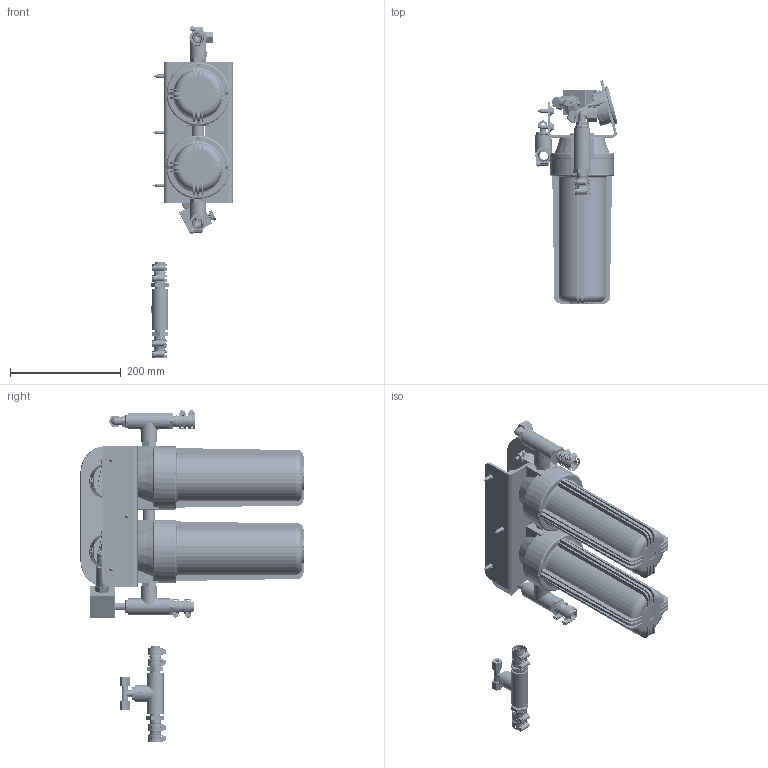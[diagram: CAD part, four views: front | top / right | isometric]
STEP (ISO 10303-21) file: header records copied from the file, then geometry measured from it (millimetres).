
FILE_DESCRIPTION(/* description */ (''),/* implementation_level */ '2;1');
FILE_NAME(/* name */ 'E:\Engineering\SRC\Leisure Marine, Product Development\2- STANDARD UNITS\HRO-MODULAR UNITS\H25M SEAFARI VERSATILE MODULAR W-TRANS\H2108200002 PREFILTER ASSY W-GAUGE,W-TRANS,HOR SEAFARI.stp',/* time_stamp */ '2015-10-20T15:58:46-07:00',/* author */ ('515746'),/* organization */ (''),/* preprocessor_version */ 'ST-DEVELOPER v15.2',/* originating_system */ 'Autodesk Inventor 2014',/* authorisation */ '');
FILE_SCHEMA (('CONFIG_CONTROL_DESIGN'));
Length unit declared in the file: inch
Products named in the file (2): H2108200002 PREFILTER ASSY W-GAUGE,W-TRANS,HOR SEAFARI_Substitute_1; H2108200002 PREFILTER ASSY W-GAUGE,W-TRANS,HOR SEAFARI
Bounding box: 148.81 x 402.43 x 598.67 mm (x, y, z)
Volume: 2528878.6 mm3; surface area: 890241.4 mm2
Topology: 61 solids, 61 shells, 6896 faces, 18502 edges, 12079 vertices
Faces by surface type: plane 2988, cylinder 1786, bspline 1596, torus 344, cone 149, sphere 33
Full cylindrical faces by diameter (mm): 0.246 x3, 0.277 x1, 0.294 x3, 0.33 x1, 0.401 x3, 0.479 x3, 0.889 x1, 1.524 x6, 1.587 x3, 2.921 x2, 3.797 x2, 4.039 x8, 4.064 x8, 4.191 x4, 4.826 x15, 5.156 x4, 6.35 x7, 6.731 x2, 6.985 x4, 7.144 x3, 8.255 x4, 9.246 x1, 9.474 x8, 9.525 x4, 9.921 x1, 10.16 x2, 10.922 x1, 11.049 x3, 11.056 x2, 11.112 x1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
Entity records: 312291 total; most frequent: CARTESIAN_POINT 146641, ORIENTED_EDGE 35640, DIRECTION 27310, EDGE_CURVE 17804, VERTEX_POINT 11876, AXIS2_PLACEMENT_3D 9222, LINE 8866, VECTOR 8866
